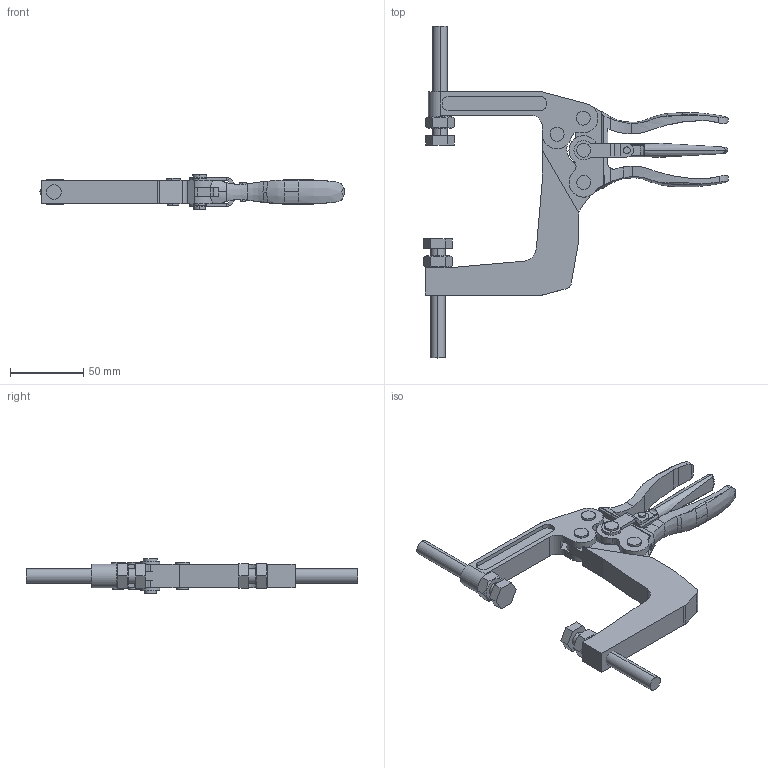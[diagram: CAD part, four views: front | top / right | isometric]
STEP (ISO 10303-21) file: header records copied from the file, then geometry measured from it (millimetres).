
FILE_DESCRIPTION (( 'STEP AP203' ), '1' );
FILE_NAME ('KFA-100.STEP', '2014-09-04T18:22:26', ( 'Ricardo' ), ( '' ), 'SwSTEP 2.0', 'SolidWorks 2013', '' );
FILE_SCHEMA (( 'CONFIG_CONTROL_DESIGN' ));
Length unit declared in the file: millimetre
Products named in the file (12): 06.50047; 01.30004; 12.50004; 01.30005; 11.50003; 03.30003; KFA-100; 03.10012; 18.30001; 18.10013; 06.50039; 06.50013
Assembly tree (16 placements, depth 2):
  KFA-100
    01.30004
    01.30005
    03.30003
    03.10012
    18.30001
    18.10013  x2
    06.50039  x3
    06.50013
    06.50047
    12.50004  x2
    11.50003  x2
Bounding box: 208.56 x 227 x 23.5 mm (x, y, z)
Volume: 130537.8 mm3; surface area: 58162.9 mm2
Topology: 17 solids, 21 shells, 401 faces, 1006 edges, 650 vertices
Faces by surface type: cylinder 197, plane 153, cone 26, bspline 25
Entity records: 13726 total; most frequent: CARTESIAN_POINT 4641, ORIENTED_EDGE 1650, DIRECTION 1529, EDGE_CURVE 828, AXIS2_PLACEMENT_3D 579, VERTEX_POINT 544, VECTOR 371, LINE 371
